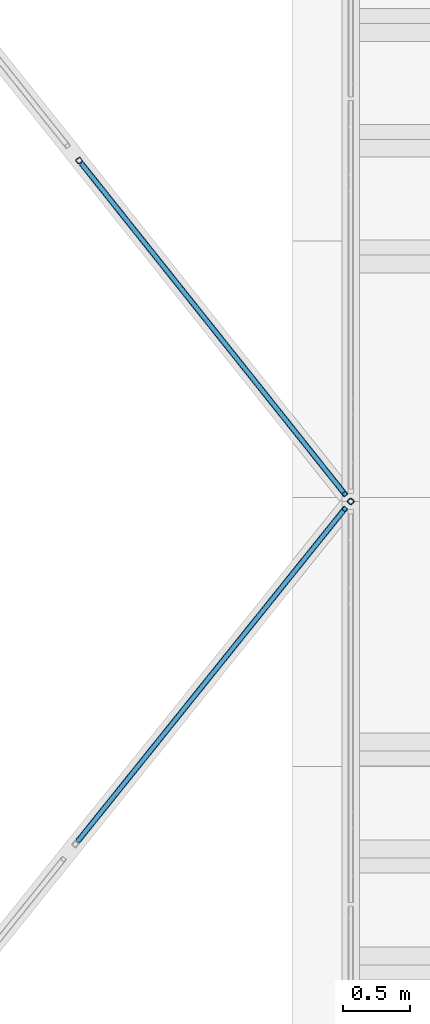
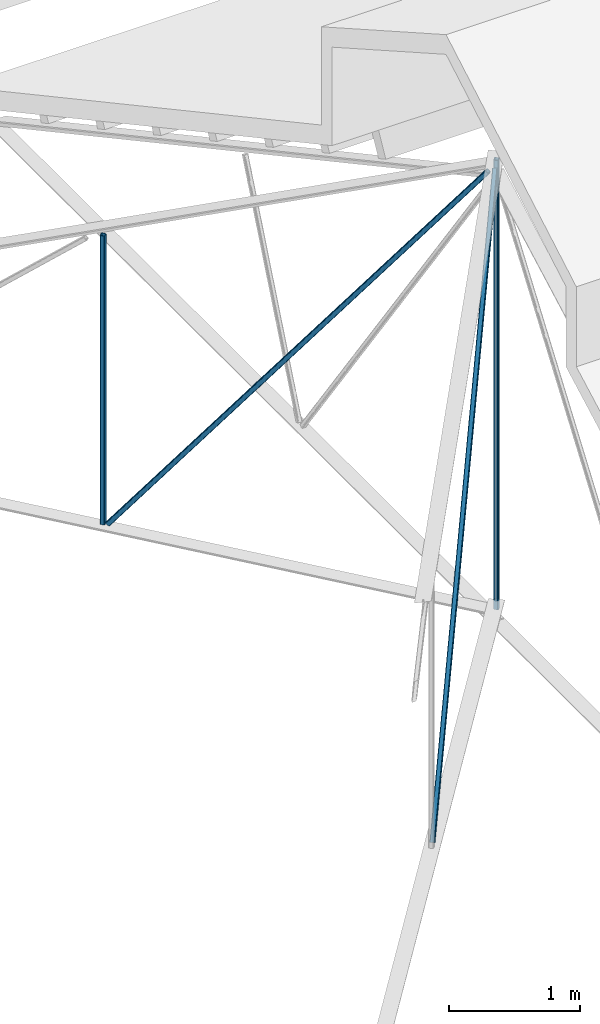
# One storey, part 6 of 15: 5 members, 2 elements without a shape of their own.
"""IFC4 building model written with IfcOpenShell, lengths in metres."""

import ifcopenshell
import ifcopenshell.guid

model = None  # the IFC model being written
_history = None  # IfcOwnerHistory: only IFC2X3 demands one
_inside = {}  # id of a spatial element -> (the spatial element, [elements in it])
_under = {}  # id of a project, library or spatial element -> (it, [spatial elements below it])
_declared = {}  # id of a project -> (the project, [libraries it declares])
_typed = {}  # id of a type object -> (the type object, [elements of that type])
_made_of = {}  # id of a material, layer set ... -> (it, [elements and type objects made of it])


def new_model(schema):
    """Start an empty IFC model of exactly this schema.

    Asked for "IFC4X3", IfcOpenShell would pick the latest addendum, in which some entities
    have other attributes; the version numbers below select the first issue.
    IFC2X3 requires an IfcOwnerHistory on every rooted entity: one is made here for all.
    """
    global model, _history
    if schema == "IFC4X3":
        model = ifcopenshell.file(schema_version=(4, 3, 0, 0))
    else:
        model = ifcopenshell.file(schema=schema)
    _inside.clear()
    _under.clear()
    _declared.clear()
    _typed.clear()
    _made_of.clear()
    _history = None
    if model.schema == "IFC2X3":
        org = make("IfcOrganization", Name="unknown")
        user = make(
            "IfcPersonAndOrganization",
            ThePerson=make("IfcPerson", FamilyName="unknown"),
            TheOrganization=org,
        )
        app = make(
            "IfcApplication",
            ApplicationDeveloper=org,
            Version="unknown",
            ApplicationFullName="unknown",
            ApplicationIdentifier="unknown",
        )
        _history = make(
            "IfcOwnerHistory",
            OwningUser=user,
            OwningApplication=app,
            ChangeAction="ADDED",
            CreationDate=0,
        )
    return model


def make(cls, **values):
    """One entity of the class cls with the attributes given. An attribute that is None is left unset."""
    return model.create_entity(
        cls, **{name: value for name, value in values.items() if value is not None}
    )


def entity(cls, *values):
    """Any entity or typed value of the class cls, its attributes in the order of the schema. None: left unset."""
    e = model.create_entity(cls)
    for i, value in enumerate(values):
        if value is not None:
            e[i] = value
    return e


def rooted(cls, **values):
    """An entity with a GlobalId (a new one), such as an element, a storey or a relation."""
    return make(cls, GlobalId=ifcopenshell.guid.new(), OwnerHistory=_history, **values)


def si_unit(unit_type, name, prefix=None):
    """IfcSIUnit, for example si_unit("LENGTHUNIT", "METRE", prefix="MILLI")."""
    return make("IfcSIUnit", UnitType=unit_type, Prefix=prefix, Name=name)


def converted_unit(unit_type, name, factor, base, dimensions=None, offset=None):
    """IfcConversionBasedUnit, such as the inch: factor (a typed value) times the base unit."""
    return make(
        "IfcConversionBasedUnit"
        if offset is None
        else "IfcConversionBasedUnitWithOffset",
        ConversionOffset=offset,
        Dimensions=None
        if dimensions is None
        else entity("IfcDimensionalExponents", *dimensions),
        UnitType=unit_type,
        Name=name,
        ConversionFactor=make(
            "IfcMeasureWithUnit", ValueComponent=factor, UnitComponent=base
        ),
    )


def derived_unit(unit_type, elements):
    """IfcDerivedUnit: a product of units, each with its exponent."""
    return make(
        "IfcDerivedUnit",
        Elements=[
            make("IfcDerivedUnitElement", Unit=unit, Exponent=power)
            for unit, power in elements
        ],
        UnitType=unit_type,
    )


def assignment(units):
    """IfcUnitAssignment: the units of a project."""
    return None if units is None else make("IfcUnitAssignment", Units=units)


def point(xyz):
    """IfcCartesianPoint."""
    return None if xyz is None else make("IfcCartesianPoint", Coordinates=xyz)


def direction(xyz):
    """IfcDirection."""
    return None if xyz is None else make("IfcDirection", DirectionRatios=xyz)


def frame(location, z_axis=None, x_axis=None):
    """IfcAxis2Placement3D, a coordinate frame: its origin and axes. An axis left out is left unset."""
    return make(
        "IfcAxis2Placement3D",
        Location=point(location),
        Axis=direction(z_axis),
        RefDirection=direction(x_axis),
    )


def origin():
    """The frame at (0, 0, 0) with its axes left unset."""
    return frame((0.0, 0.0, 0.0))


def place(relative_to, where):
    """IfcLocalPlacement: puts the frame where relative to a parent placement (None: the world)."""
    return make(
        "IfcLocalPlacement", PlacementRelTo=relative_to, RelativePlacement=where
    )


def context(
    kind, dimensions, precision=None, world=None, true_north=None, identifier=None
):
    """IfcGeometricRepresentationContext, for example the 3D "Model" context."""
    return make(
        "IfcGeometricRepresentationContext",
        ContextIdentifier=identifier,
        ContextType=kind,
        CoordinateSpaceDimension=dimensions,
        Precision=precision,
        WorldCoordinateSystem=world,
        TrueNorth=true_north,
    )


def subcontext(parent, identifier, kind, view, scale=None):
    """IfcGeometricRepresentationSubContext, for example "Body" below "Model"."""
    return make(
        "IfcGeometricRepresentationSubContext",
        ContextIdentifier=identifier,
        ContextType=kind,
        ParentContext=parent,
        TargetScale=scale,
        TargetView=view,
    )


def project(units=None, contexts=None):
    """IfcProject with its units and contexts."""
    return rooted(
        "IfcProject",
        Name="project",
        RepresentationContexts=contexts,
        UnitsInContext=assignment(units),
    )


def spatial(cls, under=None, at=None, **own):
    """A site, building, storey or space (cls), placed at a placement, below another one or the project."""
    s = rooted(cls, ObjectPlacement=at, **own)
    if under is not None:
        _under.setdefault(under.id(), (under, []))[1].append(s)
    return s


def point_list(points):
    """IfcCartesianPointList2D or 3D."""
    cls = (
        "IfcCartesianPointList2D" if len(points[0]) == 2 else "IfcCartesianPointList3D"
    )
    return make(cls, CoordList=points)


def line(*indices):
    """IfcLineIndex: a straight run through numbered points of an indexed curve."""
    return model.create_entity("IfcLineIndex", indices)


def arc(*indices):
    """IfcArcIndex: an arc through three numbered points of an indexed curve."""
    return model.create_entity("IfcArcIndex", indices)


def indexed_curve(points, segments=None, self_intersect=None):
    """IfcIndexedPolyCurve: lines and arcs through numbered points (the first is 1)."""
    return make(
        "IfcIndexedPolyCurve",
        Points=point_list(points),
        Segments=segments,
        SelfIntersect=self_intersect,
    )


def outline(outer, holes=None, kind="AREA"):
    """IfcArbitraryClosedProfileDef: a profile drawn as a closed curve; with holes, ...WithVoids."""
    if holes is None:
        return make("IfcArbitraryClosedProfileDef", ProfileType=kind, OuterCurve=outer)
    return make(
        "IfcArbitraryProfileDefWithVoids",
        ProfileType=kind,
        OuterCurve=outer,
        InnerCurves=holes,
    )


def extrude(swept, where, along, depth):
    """IfcExtrudedAreaSolid: the profile swept, set in the frame where, extruded along a direction by depth."""
    return make(
        "IfcExtrudedAreaSolid",
        SweptArea=swept,
        Position=where,
        ExtrudedDirection=direction(along),
        Depth=depth,
    )


def shape(context_of_items, identifier, shape_type, items):
    """IfcShapeRepresentation: the items that make up one representation, for example the "Body"."""
    return make(
        "IfcShapeRepresentation",
        ContextOfItems=context_of_items,
        RepresentationIdentifier=identifier,
        RepresentationType=shape_type,
        Items=items,
    )


def source(mapping_origin, context_of_items, identifier, shape_type, items):
    """IfcRepresentationMap: a shape defined once, which mapped items show again and again."""
    return make(
        "IfcRepresentationMap",
        MappingOrigin=mapping_origin,
        MappedRepresentation=shape(context_of_items, identifier, shape_type, items),
    )


def transform(
    local_origin,
    x_axis=None,
    y_axis=None,
    z_axis=None,
    scale=None,
    scale2=None,
    scale3=None,
    uniform=True,
):
    """IfcCartesianTransformationOperator3D, or its non-uniform kind. x_axis, y_axis, z_axis: its Axis1, 2, 3."""
    if uniform:
        return make(
            "IfcCartesianTransformationOperator3D",
            Axis1=direction(x_axis),
            Axis2=direction(y_axis),
            LocalOrigin=point(local_origin),
            Scale=scale,
            Axis3=direction(z_axis),
        )
    return make(
        "IfcCartesianTransformationOperator3DnonUniform",
        Axis1=direction(x_axis),
        Axis2=direction(y_axis),
        LocalOrigin=point(local_origin),
        Scale=scale,
        Axis3=direction(z_axis),
        Scale2=scale2,
        Scale3=scale3,
    )


def mapped(mapping_source, mapping_target):
    """IfcMappedItem: shows the shape of a source again, moved by a transform."""
    return make(
        "IfcMappedItem", MappingSource=mapping_source, MappingTarget=mapping_target
    )


def material(Name=None, Category=None):
    """IfcMaterial."""
    return make("IfcMaterial", Name=Name, Category=Category)


def made_of(thing, what):
    """Note that an element or type object is made of a material, layer set ...; save() writes the relation."""
    if what is not None:
        _made_of.setdefault(what.id(), (what, []))[1].append(thing)
    return thing


def type_object(cls, material=None, **own):
    """A type object (cls), such as IfcWallType, which elements share."""
    return made_of(rooted(cls, **own), material)


def type_shapes(of_type, sources):
    """Give a type object the sources (RepresentationMaps) that its elements show as mapped items."""
    of_type.RepresentationMaps = sources


def element(
    cls,
    number,
    at=None,
    inside=None,
    cuts=None,
    type_object=None,
    material=None,
    context=None,
    identifier="Body",
    shape_type=None,
    held_by="IfcProductDefinitionShape",
    body=None,
    shapes=None,
    **own,
):
    """One element of the class cls, such as IfcWall. Its Tag is "e" and its number.

    at: its placement. inside: the storey or other place that contains it. cuts: it is an
    opening in that element (IfcRelVoidsElement). A single representation is given by context,
    identifier, shape_type and body (its items); several are given by shapes. held_by: the class
    of the entity that holds the representations. save() writes the other relations.
    """
    e = rooted(cls, Tag="e%d" % number, ObjectPlacement=at, **own)
    if body is not None:
        shapes = [shape(context, identifier, shape_type, body)]
    if shapes is not None:
        e.Representation = make(held_by, Representations=shapes)
    if inside is not None:
        _inside.setdefault(inside.id(), (inside, []))[1].append(e)
    if cuts is not None:
        rooted(
            "IfcRelVoidsElement", RelatingBuildingElement=cuts, RelatedOpeningElement=e
        )
    if type_object is not None:
        _typed.setdefault(type_object.id(), (type_object, []))[1].append(e)
    return made_of(e, material)


def aggregate(whole, parts):
    """IfcRelAggregates: a whole, such as a stair, and the parts it consists of."""
    return rooted("IfcRelAggregates", RelatingObject=whole, RelatedObjects=parts)


def save(model, path):
    """Write the relations noted so far, then the file.

    IfcRelAggregates (storeys below a building ...), IfcRelContainedInSpatialStructure (elements
    in a storey), IfcRelDefinesByType, IfcRelAssociatesMaterial and IfcRelDeclares: one each for
    every whole, place, type object, material and project.
    """
    for whole, parts in _under.values():
        aggregate(whole, parts)
    for where, things in _inside.values():
        rooted(
            "IfcRelContainedInSpatialStructure",
            RelatedElements=things,
            RelatingStructure=where,
        )
    for kind, things in _typed.values():
        rooted("IfcRelDefinesByType", RelatedObjects=things, RelatingType=kind)
    for what, things in _made_of.values():
        rooted("IfcRelAssociatesMaterial", RelatedObjects=things, RelatingMaterial=what)
    for by, libraries in _declared.values():
        rooted("IfcRelDeclares", RelatingContext=by, RelatedDefinitions=libraries)
    model.write(path)


model = new_model("IFC4")

# Units and contexts
model_context = context("Model", 3, precision=1e-05, world=origin(), true_north=direction((6.123031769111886e-17, 1.0)))
body_context = subcontext(model_context, "Body", "Model", "MODEL_VIEW")
ifc_project = project(units=[si_unit("LENGTHUNIT", "METRE"), si_unit("AREAUNIT", "SQUARE_METRE"), si_unit("VOLUMEUNIT", "CUBIC_METRE"), converted_unit("PLANEANGLEUNIT", "DEGREE", entity("IfcRatioMeasure", 0.017453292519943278), si_unit("PLANEANGLEUNIT", "RADIAN"), dimensions=[0, 0, 0, 0, 0, 0, 0]), si_unit("MASSUNIT", "GRAM", prefix="KILO"), derived_unit("MASSDENSITYUNIT", [(si_unit("MASSUNIT", "GRAM", prefix="KILO"), 1), (si_unit("LENGTHUNIT", "METRE"), -3)]), derived_unit("MOMENTOFINERTIAUNIT", [(si_unit("LENGTHUNIT", "METRE"), 4)]), si_unit("TIMEUNIT", "SECOND"), si_unit("FREQUENCYUNIT", "HERTZ"), si_unit("THERMODYNAMICTEMPERATUREUNIT", "DEGREE_CELSIUS"), derived_unit("THERMALTRANSMITTANCEUNIT", [(si_unit("MASSUNIT", "GRAM", prefix="KILO"), 1), (si_unit("THERMODYNAMICTEMPERATUREUNIT", "KELVIN"), -1), (si_unit("TIMEUNIT", "SECOND"), -3)]), derived_unit("VOLUMETRICFLOWRATEUNIT", [(si_unit("LENGTHUNIT", "METRE"), 3), (si_unit("TIMEUNIT", "SECOND"), -1)]), derived_unit("MASSFLOWRATEUNIT", [(si_unit("MASSUNIT", "GRAM", prefix="KILO"), 1), (si_unit("TIMEUNIT", "SECOND"), -1)]), derived_unit("ROTATIONALFREQUENCYUNIT", [(si_unit("TIMEUNIT", "SECOND"), -1)]), si_unit("ELECTRICCURRENTUNIT", "AMPERE"), si_unit("ELECTRICVOLTAGEUNIT", "VOLT"), si_unit("POWERUNIT", "WATT"), si_unit("FORCEUNIT", "NEWTON", prefix="KILO"), si_unit("ILLUMINANCEUNIT", "LUX"), si_unit("LUMINOUSFLUXUNIT", "LUMEN"), si_unit("LUMINOUSINTENSITYUNIT", "CANDELA"), derived_unit("USERDEFINED", [(si_unit("MASSUNIT", "GRAM", prefix="KILO"), -1), (si_unit("LENGTHUNIT", "METRE"), -2), (si_unit("TIMEUNIT", "SECOND"), 3), (si_unit("LUMINOUSFLUXUNIT", "LUMEN"), 1)]), derived_unit("SOUNDPOWERUNIT", [(si_unit("MASSUNIT", "GRAM", prefix="KILO"), 1), (si_unit("LENGTHUNIT", "METRE"), 2), (si_unit("TIMEUNIT", "SECOND"), -3)]), derived_unit("SOUNDPRESSUREUNIT", [(si_unit("MASSUNIT", "GRAM", prefix="KILO"), 1), (si_unit("LENGTHUNIT", "METRE"), -1), (si_unit("TIMEUNIT", "SECOND"), -2)]), derived_unit("LINEARVELOCITYUNIT", [(si_unit("LENGTHUNIT", "METRE"), 1), (si_unit("TIMEUNIT", "SECOND"), -1)]), si_unit("PRESSUREUNIT", "PASCAL"), derived_unit("USERDEFINED", [(si_unit("LENGTHUNIT", "METRE"), -2), (si_unit("MASSUNIT", "GRAM", prefix="KILO"), 1), (si_unit("TIMEUNIT", "SECOND"), -2)]), derived_unit("LINEARFORCEUNIT", [(si_unit("MASSUNIT", "GRAM", prefix="KILO"), 1), (si_unit("LENGTHUNIT", "METRE"), 1), (si_unit("TIMEUNIT", "SECOND"), -2), (si_unit("LENGTHUNIT", "METRE"), -1)]), derived_unit("PLANARFORCEUNIT", [(si_unit("MASSUNIT", "GRAM", prefix="KILO"), 1), (si_unit("LENGTHUNIT", "METRE"), 1), (si_unit("TIMEUNIT", "SECOND"), -2), (si_unit("LENGTHUNIT", "METRE"), -2)])], contexts=[model_context])

# Site, building, storey
site_placement = place(None, origin())
site = spatial("IfcSite", under=ifc_project, at=site_placement, Name="Superficie", CompositionType="ELEMENT")
building_placement = place(site_placement, origin())
building = spatial("IfcBuilding", under=site, at=building_placement, CompositionType="ELEMENT")
storey_placement = place(building_placement, frame((0.0, 0.0, 7.25)))
storey = spatial("IfcBuildingStorey", under=building, at=storey_placement, Name="Nivel 2", CompositionType="ELEMENT", Elevation=7.25)

# Assembly, members
assembly_1_placement = place(storey_placement, origin())
assembly_1 = element("IfcElementAssembly", 1, at=assembly_1_placement, inside=storey, Name="Cercha esquina:Cercha esquina", ObjectType="Cercha esquina:Cercha esquina", AssemblyPlace="NOTDEFINED", PredefinedType="TRUSS")
ifc_material = material(Name="Metal - Acero - 345 MPa", Category="Metal")
member_type_1 = type_object("IfcMemberType", Name="HSS-Sección estructural hueca:HSS41.3X41.3X4.8", PredefinedType="BRACE", material=ifc_material)
shared_shape_1 = source(origin(), body_context, "Body", "SweptSolid", [
    extrude(outline(indexed_curve([(-0.011809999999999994, -0.020650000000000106), (0.011809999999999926, -0.020650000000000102), (0.01806082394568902, -0.01806082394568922), (0.020649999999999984, -0.011810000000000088), (0.020649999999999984, 0.011810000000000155), (0.018060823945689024, 0.018060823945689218), (0.011809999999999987, 0.0206500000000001), (-0.011809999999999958, 0.0206500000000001), (-0.01806082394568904, 0.018060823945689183), (-0.020649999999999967, 0.011810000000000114), (-0.020649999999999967, -0.01181000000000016), (-0.018060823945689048, -0.018060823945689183)], segments=[line(1, 2), arc(2, 3, 4), line(4, 5), arc(5, 6, 7), line(7, 8), arc(8, 9, 10), line(10, 11), arc(11, 12, 1)], self_intersect=False), holes=[indexed_curve([(-0.01623000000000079, 0.01180999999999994), (-0.014935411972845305, 0.014935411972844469), (-0.011810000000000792, 0.016229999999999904), (0.01180999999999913, 0.016229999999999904), (0.01493541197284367, 0.014935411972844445), (0.01622999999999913, 0.01180999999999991), (0.01622999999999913, -0.011809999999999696), (0.014935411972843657, -0.014935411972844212), (0.01180999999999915, -0.01622999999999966), (-0.011810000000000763, -0.01622999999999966), (-0.014935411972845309, -0.01493541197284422), (-0.01623000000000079, -0.011809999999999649)], segments=[arc(1, 2, 3), line(3, 4), arc(4, 5, 6), line(6, 7), arc(7, 8, 9), line(9, 10), arc(10, 11, 12), line(12, 1)], self_intersect=False)]), frame((-2.0560000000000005, 0.0, 0.0), z_axis=(1.0, 0.0, 0.0), x_axis=(0.0, 0.0, -1.0)), (0.0, 0.0, 1.0), 4.1000000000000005),
])
type_shapes(member_type_1, [shared_shape_1])
member_1_placement = place(assembly_1_placement, frame((-16.492651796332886, -1.9593113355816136, 2.406031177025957), z_axis=(0.6262435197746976, 0.7796275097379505, 0.0), x_axis=(0.0, 0.0, 1.0)))
member_1 = element("IfcMember", 2, at=member_1_placement, type_object=member_type_1, material=ifc_material, Name="HSS-Sección estructural hueca:HSS41.3X41.3X4.8", ObjectType="HSS-Sección estructural hueca:HSS41.3X41.3X4.8", PredefinedType="BRACE", context=body_context, shape_type="MappedRepresentation", body=[
    mapped(shared_shape_1, transform((0.0, 0.0, 0.0), scale=1.0)),
])
member_type_2 = type_object("IfcMemberType", Name="HSS-Sección estructural hueca:HSS41.3X41.3X4.8", PredefinedType="BRACE", material=ifc_material)
shared_shape_2 = source(origin(), body_context, "Body", "SweptSolid", [
    extrude(outline(indexed_curve([(-0.011809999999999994, -0.020650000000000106), (0.011809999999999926, -0.020650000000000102), (0.01806082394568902, -0.01806082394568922), (0.020649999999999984, -0.011810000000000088), (0.020649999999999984, 0.011810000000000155), (0.018060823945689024, 0.018060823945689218), (0.011809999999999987, 0.0206500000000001), (-0.011809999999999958, 0.0206500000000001), (-0.01806082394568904, 0.018060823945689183), (-0.020649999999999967, 0.011810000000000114), (-0.020649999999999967, -0.01181000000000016), (-0.018060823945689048, -0.018060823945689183)], segments=[line(1, 2), arc(2, 3, 4), line(4, 5), arc(5, 6, 7), line(7, 8), arc(8, 9, 10), line(10, 11), arc(11, 12, 1)], self_intersect=False), holes=[indexed_curve([(-0.01623000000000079, 0.01180999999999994), (-0.014935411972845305, 0.014935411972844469), (-0.011810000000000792, 0.016229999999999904), (0.01180999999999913, 0.016229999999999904), (0.01493541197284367, 0.014935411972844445), (0.01622999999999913, 0.01180999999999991), (0.01622999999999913, -0.011809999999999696), (0.014935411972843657, -0.014935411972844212), (0.01180999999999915, -0.01622999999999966), (-0.011810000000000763, -0.01622999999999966), (-0.014935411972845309, -0.01493541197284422), (-0.01623000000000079, -0.011809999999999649)], segments=[arc(1, 2, 3), line(3, 4), arc(4, 5, 6), line(6, 7), arc(7, 8, 9), line(9, 10), arc(10, 11, 12), line(12, 1)], self_intersect=False)]), frame((-2.617500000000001, 0.0, 0.0), z_axis=(1.0, 0.0, 0.0), x_axis=(0.0, 0.0, -1.0)), (0.0, 0.0, 1.0), 5.187000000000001),
])
type_shapes(member_type_2, [shared_shape_2])
member_2_placement = place(assembly_1_placement, frame((-17.514649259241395, -3.231623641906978, 2.3715440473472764), z_axis=(0.49757247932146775, 0.6194414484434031, -0.6072181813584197), x_axis=(0.38026645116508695, 0.473403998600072, 0.794535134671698)))
member_2 = element("IfcMember", 3, at=member_2_placement, type_object=member_type_2, material=ifc_material, Name="HSS-Sección estructural hueca:HSS41.3X41.3X4.8", ObjectType="HSS-Sección estructural hueca:HSS41.3X41.3X4.8", PredefinedType="BRACE", context=body_context, shape_type="MappedRepresentation", body=[
    mapped(shared_shape_2, transform((0.0, 0.0, 0.0), scale=1.0)),
])
aggregate(assembly_1, [member_1, member_2])

assembly_2_placement = place(storey_placement, origin())
assembly_2 = element("IfcElementAssembly", 4, at=assembly_2_placement, inside=storey, Name="Cercha esquina:Cercha esquina", ObjectType="Cercha esquina:Cercha esquina", AssemblyPlace="NOTDEFINED", PredefinedType="TRUSS")
member_type_3 = type_object("IfcMemberType", Name="HSS-Sección estructural hueca:HSS41.3X41.3X4.8", PredefinedType="BRACE", material=ifc_material)
shared_shape_3 = source(origin(), body_context, "Body", "SweptSolid", [
    extrude(outline(indexed_curve([(-0.020650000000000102, -0.011809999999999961), (-0.01806082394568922, -0.018060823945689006), (-0.011810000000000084, -0.020649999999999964), (0.011810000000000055, -0.020649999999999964), (0.01806082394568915, -0.01806082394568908), (0.020650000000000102, -0.011809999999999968), (0.020650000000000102, 0.011809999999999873), (0.018060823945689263, 0.018060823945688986), (0.01181000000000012, 0.020649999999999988), (-0.011810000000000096, 0.020649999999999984), (-0.018060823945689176, 0.018060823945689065), (-0.020650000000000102, 0.011810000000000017)], segments=[arc(1, 2, 3), line(3, 4), arc(4, 5, 6), line(6, 7), arc(7, 8, 9), line(9, 10), arc(10, 11, 12), line(12, 1)], self_intersect=False), holes=[indexed_curve([(0.01180999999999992, -0.016230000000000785), (-0.011809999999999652, -0.016230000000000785), (-0.014935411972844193, -0.014935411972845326), (-0.016229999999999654, -0.011810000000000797), (-0.016229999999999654, 0.011809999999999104), (-0.014935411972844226, 0.01493541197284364), (-0.011809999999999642, 0.016229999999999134), (0.011809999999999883, 0.016229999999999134), (0.014935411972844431, 0.014935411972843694), (0.01622999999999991, 0.011809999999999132), (0.01622999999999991, -0.011810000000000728), (0.014935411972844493, -0.014935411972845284)], segments=[line(1, 2), arc(2, 3, 4), line(4, 5), arc(5, 6, 7), line(7, 8), arc(8, 9, 10), line(10, 11), arc(11, 12, 1)], self_intersect=False)]), frame((-2.0560000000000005, 0.0, 0.0), z_axis=(1.0, 0.0, 0.0), x_axis=(0.0, -1.0, 0.0)), (0.0, 0.0, 1.0), 4.1000000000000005),
])
type_shapes(member_type_3, [shared_shape_3])
member_3_placement = place(assembly_2_placement, frame((-16.492651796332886, -1.95931133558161, 2.3078143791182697), z_axis=(0.623142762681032, -0.7821081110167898, 0.0), x_axis=(0.0, 0.0, 1.0)))
member_3 = element("IfcMember", 5, at=member_3_placement, type_object=member_type_3, material=ifc_material, Name="HSS-Sección estructural hueca:HSS41.3X41.3X4.8", ObjectType="HSS-Sección estructural hueca:HSS41.3X41.3X4.8", PredefinedType="BRACE", context=body_context, shape_type="MappedRepresentation", body=[
    mapped(shared_shape_3, transform((0.0, 0.0, 0.0), scale=1.0)),
])
member_type_4 = type_object("IfcMemberType", Name="HSS-Sección estructural hueca:HSS41.3X41.3X4.8", PredefinedType="BRACE", material=ifc_material)
shared_shape_4 = source(origin(), body_context, "Body", "SweptSolid", [
    extrude(outline(indexed_curve([(0.011809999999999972, -0.020650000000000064), (0.01806082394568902, -0.018060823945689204), (0.020650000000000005, -0.011810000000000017), (0.02064999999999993, 0.011810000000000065), (0.01806082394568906, 0.01806082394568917), (0.0118099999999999, 0.02065000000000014), (-0.011809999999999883, 0.020650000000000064), (-0.018060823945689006, 0.018060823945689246), (-0.020650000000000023, 0.011810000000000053), (-0.020649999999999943, -0.011810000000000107), (-0.018060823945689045, -0.018060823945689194), (-0.011809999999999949, -0.02065000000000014)], segments=[arc(1, 2, 3), line(3, 4), arc(4, 5, 6), line(6, 7), arc(7, 8, 9), line(9, 10), arc(10, 11, 12), line(12, 1)], self_intersect=False), holes=[indexed_curve([(0.016230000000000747, 0.011809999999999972), (0.016230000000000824, -0.0118099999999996), (0.014935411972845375, -0.014935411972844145), (0.01181000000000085, -0.016229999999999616), (-0.011809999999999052, -0.016229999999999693), (-0.014935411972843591, -0.014935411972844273), (-0.016229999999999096, -0.011809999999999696), (-0.016229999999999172, 0.011809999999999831), (-0.014935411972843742, 0.014935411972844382), (-0.011809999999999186, 0.016229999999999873), (0.011810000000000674, 0.01622999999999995), (0.014935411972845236, 0.014935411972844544)], segments=[line(1, 2), arc(2, 3, 4), line(4, 5), arc(5, 6, 7), line(7, 8), arc(8, 9, 10), line(10, 11), arc(11, 12, 1)], self_intersect=False)]), frame((-1.3554999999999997, 0.0, 0.0), z_axis=(1.0, 0.0, 0.0), x_axis=(0.0, 0.0, 1.0)), (0.0, 0.0, 1.0), 2.699),
])
type_shapes(member_type_4, [shared_shape_4])
member_4_placement = place(assembly_2_placement, frame((-18.508640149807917, 0.5709609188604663, 1.5712818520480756), z_axis=(0.623142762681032, -0.7821081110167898, 0.0), x_axis=(0.0, 0.0, 1.0)))
member_4 = element("IfcMember", 6, at=member_4_placement, type_object=member_type_4, material=ifc_material, Name="HSS-Sección estructural hueca:HSS41.3X41.3X4.8", ObjectType="HSS-Sección estructural hueca:HSS41.3X41.3X4.8", PredefinedType="BRACE", context=body_context, shape_type="MappedRepresentation", body=[
    mapped(shared_shape_4, transform((0.0, 0.0, 0.0), scale=1.0)),
])
member_type_5 = type_object("IfcMemberType", Name="HSS-Sección estructural hueca:HSS41.3X41.3X4.8", PredefinedType="BRACE", material=ifc_material)
shared_shape_5 = source(origin(), body_context, "Body", "SweptSolid", [
    extrude(outline(indexed_curve([(-0.020650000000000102, -0.011809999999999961), (-0.01806082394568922, -0.018060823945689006), (-0.011810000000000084, -0.020649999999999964), (0.011810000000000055, -0.020649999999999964), (0.01806082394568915, -0.01806082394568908), (0.020650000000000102, -0.011809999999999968), (0.020650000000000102, 0.011809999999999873), (0.018060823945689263, 0.018060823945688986), (0.01181000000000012, 0.020649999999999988), (-0.011810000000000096, 0.020649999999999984), (-0.018060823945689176, 0.018060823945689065), (-0.020650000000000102, 0.011810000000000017)], segments=[arc(1, 2, 3), line(3, 4), arc(4, 5, 6), line(6, 7), arc(7, 8, 9), line(9, 10), arc(10, 11, 12), line(12, 1)], self_intersect=False), holes=[indexed_curve([(0.01180999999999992, -0.016230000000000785), (-0.011809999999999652, -0.016230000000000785), (-0.014935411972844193, -0.014935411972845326), (-0.016229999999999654, -0.011810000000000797), (-0.016229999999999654, 0.011809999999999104), (-0.014935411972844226, 0.01493541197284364), (-0.011809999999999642, 0.016229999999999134), (0.011809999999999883, 0.016229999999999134), (0.014935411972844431, 0.014935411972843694), (0.01622999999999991, 0.011809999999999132), (0.01622999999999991, -0.011810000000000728), (0.014935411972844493, -0.014935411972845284)], segments=[line(1, 2), arc(2, 3, 4), line(4, 5), arc(5, 6, 7), line(7, 8), arc(8, 9, 10), line(10, 11), arc(11, 12, 1)], self_intersect=False)]), frame((-2.5960000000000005, 0.0, 0.0), z_axis=(1.0, 0.0, 0.0), x_axis=(0.0, -1.0, 0.0)), (0.0, 0.0, 1.0), 5.145000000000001),
])
type_shapes(member_type_5, [shared_shape_5])
member_5_placement = place(assembly_2_placement, frame((-17.5006459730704, -0.6941752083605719, 2.289696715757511), z_axis=(0.4953163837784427, -0.6216728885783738, -0.6067820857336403), x_axis=(0.37811186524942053, -0.47456919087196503, 0.7948682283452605)))
member_5 = element("IfcMember", 7, at=member_5_placement, type_object=member_type_5, material=ifc_material, Name="HSS-Sección estructural hueca:HSS41.3X41.3X4.8", ObjectType="HSS-Sección estructural hueca:HSS41.3X41.3X4.8", PredefinedType="BRACE", context=body_context, shape_type="MappedRepresentation", body=[
    mapped(shared_shape_5, transform((0.0, 0.0, 0.0), scale=1.0)),
])
aggregate(assembly_2, [member_3, member_4, member_5])

save(model, "model.ifc")
